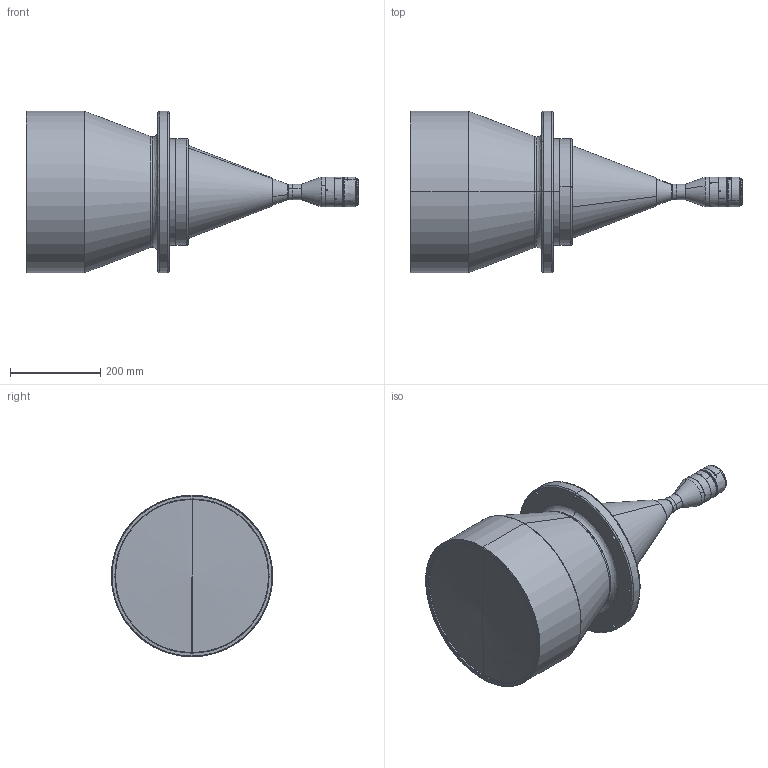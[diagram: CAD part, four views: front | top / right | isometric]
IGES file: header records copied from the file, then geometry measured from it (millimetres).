
Start section: SolidWorks IGES file using analytic representation for surfaces
Global section: file name: F:\BaiduSyncdisk\1-产品  2022-new\DTCM（2023.5.29整体拷过来）\F+B\－－ AL   可调后截距\300S-  AL-ok\DTCM71M-300S-M58-AL\3D\DTCM71M-300S-M58-AL.IGS; native system: SolidWorks 2017; preprocessor: SolidWorks 2017; author: luo-PC; date: 231124.144604; units: millimetre
Bounding box: 736.7 x 358 x 358 mm (x, y, z)
Surface area: 711100.4 mm2 (no closed solid volume)
Topology: 0 solids, 0 shells, 163 faces, 3825 edges, 3819 vertices
Faces by surface type: revolution 122, bspline 41
